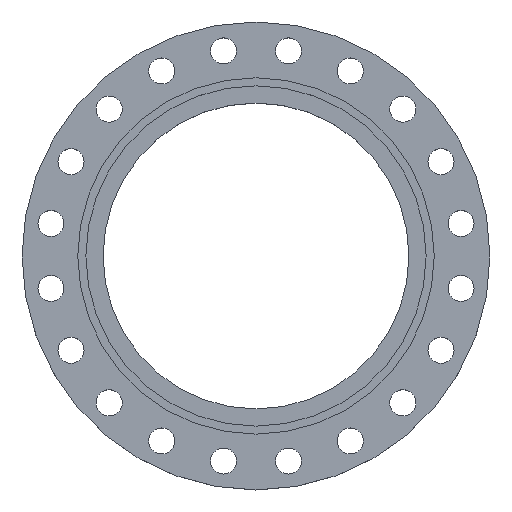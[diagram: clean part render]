
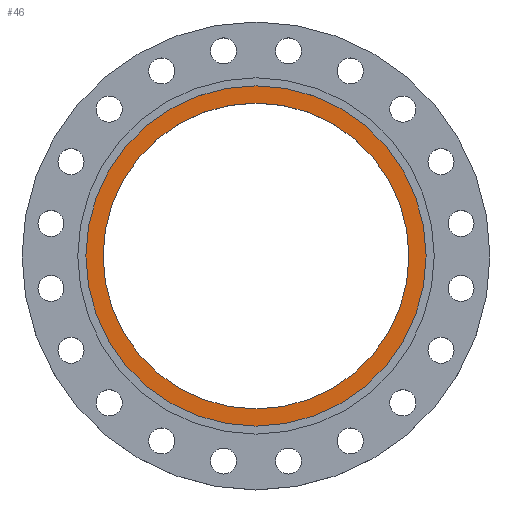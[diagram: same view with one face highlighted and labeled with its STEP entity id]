
A CAD part, top view. The second image highlights one B-rep face of the part: STEP entity #46.
In plain terms, the highlighted planar face has unit normal (0, 0, 1).
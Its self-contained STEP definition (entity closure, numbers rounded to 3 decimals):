
#46 = ADVANCED_FACE ( 'NONE', ( #1734, #307 ), #1020, .T. ) ;
#79 = DIRECTION ( 'NONE',  ( 0., 0., 1. ) ) ;
#160 = DIRECTION ( 'NONE',  ( 0., 0., 1. ) ) ;
#294 = VERTEX_POINT ( 'NONE', #1114 ) ;
#302 = CARTESIAN_POINT ( 'NONE',  ( 0., 0., -5.5 ) ) ;
#307 = FACE_OUTER_BOUND ( 'NONE', #1639, .T. ) ;
#355 = DIRECTION ( 'NONE',  ( -1., 0., 0. ) ) ;
#445 = VERTEX_POINT ( 'NONE', #1763 ) ;
#449 = EDGE_LOOP ( 'NONE', ( #514, #713 ) ) ;
#479 = EDGE_CURVE ( 'NONE', #445, #294, #1150, .T. ) ;
#486 = CARTESIAN_POINT ( 'NONE',  ( -246.752, 0., -5.5 ) ) ;
#507 = CARTESIAN_POINT ( 'NONE',  ( 0., 0., -5.5 ) ) ;
#514 = ORIENTED_EDGE ( 'NONE', *, *, #1955, .F. ) ;
#691 = AXIS2_PLACEMENT_3D ( 'NONE', #1579, #160, #864 ) ;
#699 = CARTESIAN_POINT ( 'NONE',  ( 246.752, 0., -5.5 ) ) ;
#713 = ORIENTED_EDGE ( 'NONE', *, *, #853, .F. ) ;
#758 = EDGE_CURVE ( 'NONE', #294, #445, #1231, .T. ) ;
#773 = DIRECTION ( 'NONE',  ( 1., 0., 0. ) ) ;
#802 = VERTEX_POINT ( 'NONE', #486 ) ;
#822 = ORIENTED_EDGE ( 'NONE', *, *, #758, .F. ) ;
#845 = VERTEX_POINT ( 'NONE', #699 ) ;
#853 = EDGE_CURVE ( 'NONE', #802, #845, #1309, .T. ) ;
#864 = DIRECTION ( 'NONE',  ( 1., 0., 0. ) ) ;
#1016 = DIRECTION ( 'NONE',  ( 0., 0., -1. ) ) ;
#1020 = PLANE ( 'NONE',  #691 ) ;
#1114 = CARTESIAN_POINT ( 'NONE',  ( -274.5, 0., -5.5 ) ) ;
#1150 = CIRCLE ( 'NONE', #1152, 274.5 ) ;
#1152 = AXIS2_PLACEMENT_3D ( 'NONE', #1190, #1772, #355 ) ;
#1173 = DIRECTION ( 'NONE',  ( 0., 0., 1. ) ) ;
#1190 = CARTESIAN_POINT ( 'NONE',  ( 0., 0., -5.5 ) ) ;
#1231 = CIRCLE ( 'NONE', #1241, 274.5 ) ;
#1241 = AXIS2_PLACEMENT_3D ( 'NONE', #302, #1016, #1576 ) ;
#1309 = CIRCLE ( 'NONE', #1317, 246.752 ) ;
#1317 = AXIS2_PLACEMENT_3D ( 'NONE', #507, #1173, #1754 ) ;
#1515 = CARTESIAN_POINT ( 'NONE',  ( 0., 0., -5.5 ) ) ;
#1576 = DIRECTION ( 'NONE',  ( -1., 0., 0. ) ) ;
#1579 = CARTESIAN_POINT ( 'NONE',  ( 274.5, 0., -5.5 ) ) ;
#1585 = AXIS2_PLACEMENT_3D ( 'NONE', #1515, #79, #773 ) ;
#1639 = EDGE_LOOP ( 'NONE', ( #822, #1788 ) ) ;
#1734 = FACE_BOUND ( 'NONE', #449, .T. ) ;
#1754 = DIRECTION ( 'NONE',  ( 1., 0., 0. ) ) ;
#1763 = CARTESIAN_POINT ( 'NONE',  ( 274.5, 0., -5.5 ) ) ;
#1772 = DIRECTION ( 'NONE',  ( 0., 0., -1. ) ) ;
#1788 = ORIENTED_EDGE ( 'NONE', *, *, #479, .F. ) ;
#1856 = CIRCLE ( 'NONE', #1585, 246.752 ) ;
#1955 = EDGE_CURVE ( 'NONE', #845, #802, #1856, .T. ) ;
